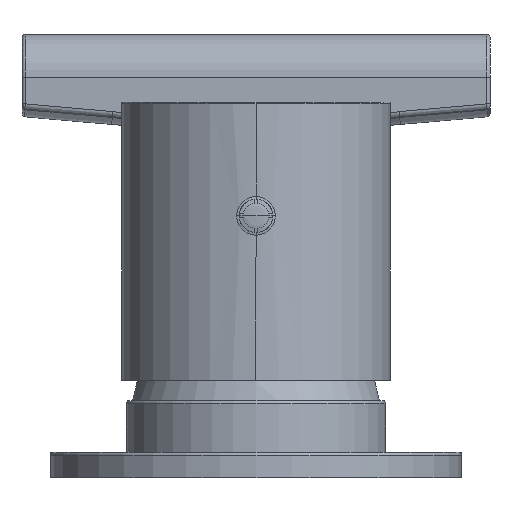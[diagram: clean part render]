
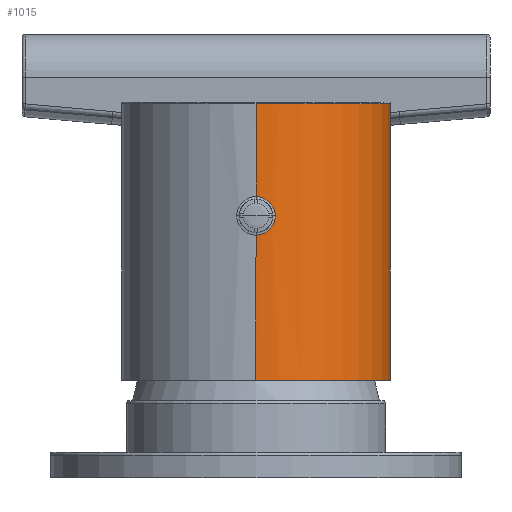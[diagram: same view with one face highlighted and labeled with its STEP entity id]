
A CAD part, front view. The second image highlights one B-rep face of the part: STEP entity #1015.
In plain terms, the highlighted cylindrical face has radius 21.25 mm (diameter 42.5 mm), a partial arc.
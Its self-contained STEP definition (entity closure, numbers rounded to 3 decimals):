
#39=CARTESIAN_POINT('',(0.,-21.25,88.55));
#40=CARTESIAN_POINT('',(0.05,-21.25,88.55));
#41=CARTESIAN_POINT('',(0.15,-21.25,88.547));
#42=CARTESIAN_POINT('',(0.25,-21.249,88.539));
#43=CARTESIAN_POINT('',(0.3,-21.248,88.533));
#45=DIRECTION('',(0.,0.,-1.));
#46=VECTOR('',#45,15.1);
#47=CARTESIAN_POINT('',(0.,-21.25,103.65));
#48=LINE('',#47,#46);
#49=CARTESIAN_POINT('',(0.,0.,103.65));
#50=DIRECTION('',(0.,0.,-1.));
#51=DIRECTION('',(0.,1.,0.));
#52=AXIS2_PLACEMENT_3D('',#49,#50,#51);
#54=DIRECTION('',(0.,0.,-1.));
#55=VECTOR('',#54,43.75);
#56=CARTESIAN_POINT('',(0.,21.25,103.65));
#57=LINE('',#56,#55);
#58=DIRECTION('',(0.,0.,-1.));
#59=VECTOR('',#58,23.35);
#60=CARTESIAN_POINT('',(0.,-21.25,83.25));
#61=LINE('',#60,#59);
#62=CARTESIAN_POINT('',(0.3,-21.248,83.267));
#63=CARTESIAN_POINT('',(0.25,-21.249,83.261));
#64=CARTESIAN_POINT('',(0.15,-21.25,83.253));
#65=CARTESIAN_POINT('',(0.05,-21.25,83.25));
#66=CARTESIAN_POINT('',(0.,-21.25,83.25));
#68=CARTESIAN_POINT('',(2.633,-21.086,85.6));
#69=CARTESIAN_POINT('',(2.626,-21.087,85.535));
#70=CARTESIAN_POINT('',(2.606,-21.09,85.405));
#71=CARTESIAN_POINT('',(2.562,-21.095,85.212));
#72=CARTESIAN_POINT('',(2.503,-21.102,85.023));
#73=CARTESIAN_POINT('',(2.431,-21.111,84.839));
#74=CARTESIAN_POINT('',(2.345,-21.12,84.661));
#75=CARTESIAN_POINT('',(2.246,-21.131,84.489));
#76=CARTESIAN_POINT('',(2.134,-21.143,84.325));
#77=CARTESIAN_POINT('',(2.011,-21.155,84.17));
#78=CARTESIAN_POINT('',(1.876,-21.167,84.024));
#79=CARTESIAN_POINT('',(1.73,-21.18,83.889));
#80=CARTESIAN_POINT('',(1.575,-21.192,83.766));
#81=CARTESIAN_POINT('',(1.411,-21.203,83.654));
#82=CARTESIAN_POINT('',(1.239,-21.214,83.555));
#83=CARTESIAN_POINT('',(1.061,-21.224,83.469));
#84=CARTESIAN_POINT('',(0.877,-21.232,83.397));
#85=CARTESIAN_POINT('',(0.688,-21.239,83.338));
#86=CARTESIAN_POINT('',(0.495,-21.245,83.294));
#87=CARTESIAN_POINT('',(0.365,-21.247,83.274));
#88=CARTESIAN_POINT('',(0.3,-21.248,83.267));
#90=CARTESIAN_POINT('',(2.633,-21.086,86.2));
#91=CARTESIAN_POINT('',(2.641,-21.085,86.133));
#92=CARTESIAN_POINT('',(2.651,-21.084,86.));
#93=CARTESIAN_POINT('',(2.651,-21.084,85.8));
#94=CARTESIAN_POINT('',(2.641,-21.085,85.667));
#95=CARTESIAN_POINT('',(2.633,-21.086,85.6));
#97=CARTESIAN_POINT('',(0.3,-21.248,88.533));
#98=CARTESIAN_POINT('',(0.365,-21.247,88.526));
#99=CARTESIAN_POINT('',(0.495,-21.245,88.506));
#100=CARTESIAN_POINT('',(0.688,-21.239,88.462));
#101=CARTESIAN_POINT('',(0.877,-21.232,88.403));
#102=CARTESIAN_POINT('',(1.061,-21.224,88.331));
#103=CARTESIAN_POINT('',(1.239,-21.214,88.245));
#104=CARTESIAN_POINT('',(1.411,-21.203,88.146));
#105=CARTESIAN_POINT('',(1.575,-21.192,88.034));
#106=CARTESIAN_POINT('',(1.73,-21.18,87.911));
#107=CARTESIAN_POINT('',(1.876,-21.167,87.776));
#108=CARTESIAN_POINT('',(2.011,-21.155,87.63));
#109=CARTESIAN_POINT('',(2.134,-21.143,87.475));
#110=CARTESIAN_POINT('',(2.246,-21.131,87.311));
#111=CARTESIAN_POINT('',(2.345,-21.12,87.139));
#112=CARTESIAN_POINT('',(2.431,-21.111,86.961));
#113=CARTESIAN_POINT('',(2.503,-21.102,86.777));
#114=CARTESIAN_POINT('',(2.562,-21.095,86.588));
#115=CARTESIAN_POINT('',(2.606,-21.09,86.395));
#116=CARTESIAN_POINT('',(2.626,-21.087,86.265));
#117=CARTESIAN_POINT('',(2.633,-21.086,86.2));
#436=CARTESIAN_POINT('',(0.,0.,59.9));
#437=DIRECTION('',(0.,0.,-1.));
#438=DIRECTION('',(0.,1.,0.));
#439=AXIS2_PLACEMENT_3D('',#436,#437,#438);
#822=CARTESIAN_POINT('',(0.,21.25,59.9));
#823=CARTESIAN_POINT('',(0.,-21.25,59.9));
#824=VERTEX_POINT('',#822);
#825=VERTEX_POINT('',#823);
#826=CARTESIAN_POINT('',(0.,21.25,103.65));
#827=CARTESIAN_POINT('',(0.,-21.25,103.65));
#828=VERTEX_POINT('',#826);
#829=VERTEX_POINT('',#827);
#834=CARTESIAN_POINT('',(0.,-21.25,88.55));
#835=VERTEX_POINT('',#834);
#836=CARTESIAN_POINT('',(0.,-21.25,83.25));
#837=VERTEX_POINT('',#836);
#938=VERTEX_POINT('',#62);
#939=VERTEX_POINT('',#68);
#940=VERTEX_POINT('',#43);
#941=VERTEX_POINT('',#90);
#989=CARTESIAN_POINT('',(0.,0.,57.7));
#990=DIRECTION('',(0.,0.,1.));
#991=DIRECTION('',(0.,-1.,0.));
#992=AXIS2_PLACEMENT_3D('',#989,#990,#991);
#993=CYLINDRICAL_SURFACE('',#992,21.25);
#995=ORIENTED_EDGE('',*,*,#994,.F.);
#997=ORIENTED_EDGE('',*,*,#996,.F.);
#999=ORIENTED_EDGE('',*,*,#998,.F.);
#1001=ORIENTED_EDGE('',*,*,#1000,.T.);
#1003=ORIENTED_EDGE('',*,*,#1002,.T.);
#1005=ORIENTED_EDGE('',*,*,#1004,.F.);
#1007=ORIENTED_EDGE('',*,*,#1006,.F.);
#1009=ORIENTED_EDGE('',*,*,#1008,.F.);
#1011=ORIENTED_EDGE('',*,*,#1010,.F.);
#1012=ORIENTED_EDGE('',*,*,#972,.F.);
#1013=EDGE_LOOP('',(#995,#997,#999,#1001,#1003,#1005,#1007,#1009,#1011,#1012));
#1014=FACE_OUTER_BOUND('',#1013,.F.);
#44=B_SPLINE_CURVE_WITH_KNOTS('',3,(#39,#40,#41,#42,#43),.UNSPECIFIED.,.F.,.F.,(
4,1,4),(0.,0.5,1.),.UNSPECIFIED.);
#53=CIRCLE('',#52,21.25);
#67=B_SPLINE_CURVE_WITH_KNOTS('',3,(#62,#63,#64,#65,#66),.UNSPECIFIED.,.F.,.F.,(
4,1,4),(0.,0.5,1.),.UNSPECIFIED.);
#89=B_SPLINE_CURVE_WITH_KNOTS('',3,(#68,#69,#70,#71,#72,#73,#74,#75,#76,#77,#78,
#79,#80,#81,#82,#83,#84,#85,#86,#87,#88),.UNSPECIFIED.,.F.,.F.,(4,1,1,1,1,1,1,1,
1,1,1,1,1,1,1,1,1,1,4),(0.,0.056,0.111,
0.167,0.222,0.278,0.333,
0.389,0.444,0.5,0.556,0.611,
0.667,0.722,0.778,0.833,
0.889,0.944,1.),.UNSPECIFIED.);
#96=B_SPLINE_CURVE_WITH_KNOTS('',3,(#90,#91,#92,#93,#94,#95),.UNSPECIFIED.,.F.,
.F.,(4,1,1,4),(0.,0.333,0.667,1.),.UNSPECIFIED.);
#118=B_SPLINE_CURVE_WITH_KNOTS('',3,(#97,#98,#99,#100,#101,#102,#103,#104,#105,
#106,#107,#108,#109,#110,#111,#112,#113,#114,#115,#116,#117),.UNSPECIFIED.,.F.,
.F.,(4,1,1,1,1,1,1,1,1,1,1,1,1,1,1,1,1,1,4),(0.,0.056,
0.111,0.167,0.222,0.278,
0.333,0.389,0.444,0.5,0.556,
0.611,0.667,0.722,0.778,
0.833,0.889,0.944,1.),.UNSPECIFIED.);
#440=CIRCLE('',#439,21.25);
#972=EDGE_CURVE('',#940,#941,#118,.T.);
#994=EDGE_CURVE('',#835,#940,#44,.T.);
#996=EDGE_CURVE('',#829,#835,#48,.T.);
#998=EDGE_CURVE('',#828,#829,#53,.T.);
#1000=EDGE_CURVE('',#828,#824,#57,.T.);
#1002=EDGE_CURVE('',#824,#825,#440,.T.);
#1004=EDGE_CURVE('',#837,#825,#61,.T.);
#1006=EDGE_CURVE('',#938,#837,#67,.T.);
#1008=EDGE_CURVE('',#939,#938,#89,.T.);
#1010=EDGE_CURVE('',#941,#939,#96,.T.);
#1015=ADVANCED_FACE('',(#1014),#993,.T.);
